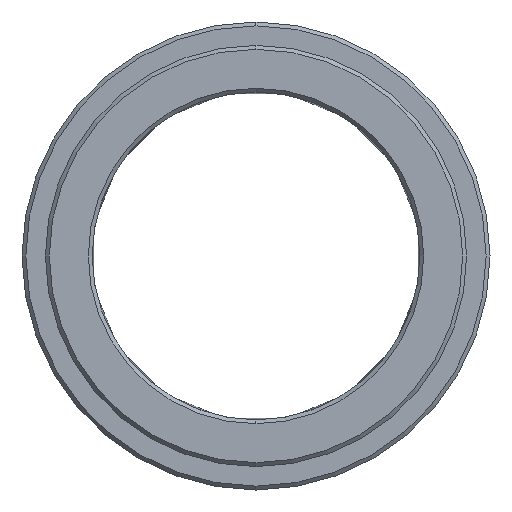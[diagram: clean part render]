
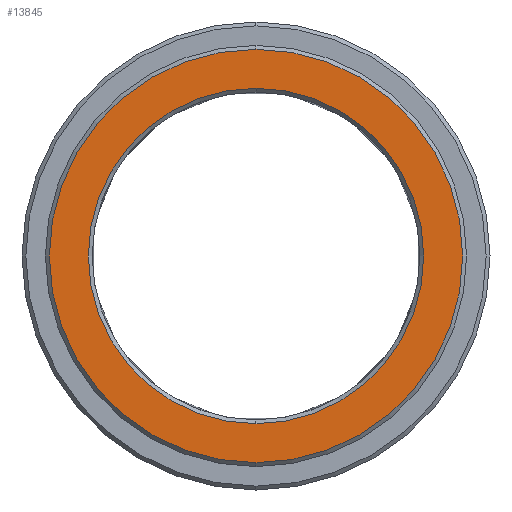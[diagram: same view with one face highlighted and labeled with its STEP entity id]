
A CAD part, left-side view. The second image highlights one B-rep face of the part: STEP entity #13845.
In plain terms, the highlighted planar face has unit normal (-1, 0, 0).
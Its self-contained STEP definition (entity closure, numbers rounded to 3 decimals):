
#9634=CARTESIAN_POINT('',(-10.,0.,
0.));
#9635=DIRECTION('',(1.,0.,0.));
#9636=DIRECTION('',(0.,0.,1.));
#9637=AXIS2_PLACEMENT_3D('',#9634,#9635,#9636);
#9639=CARTESIAN_POINT('',(-10.,0.,
0.));
#9640=DIRECTION('',(1.,0.,0.));
#9641=DIRECTION('',(0.,0.,-1.));
#9642=AXIS2_PLACEMENT_3D('',#9639,#9640,#9641);
#9644=CARTESIAN_POINT('',(-10.,0.,0.));
#9645=DIRECTION('',(1.,0.,0.));
#9646=DIRECTION('',(0.,0.,1.));
#9647=AXIS2_PLACEMENT_3D('',#9644,#9645,#9646);
#9649=CARTESIAN_POINT('',(-10.,0.,0.));
#9650=DIRECTION('',(1.,0.,0.));
#9651=DIRECTION('',(0.,0.,-1.));
#9652=AXIS2_PLACEMENT_3D('',#9649,#9650,#9651);
#10184=CARTESIAN_POINT('',(-10.,0.,21.5));
#10185=CARTESIAN_POINT('',(-10.,0.,-21.5));
#10186=VERTEX_POINT('',#10184);
#10187=VERTEX_POINT('',#10185);
#10192=CARTESIAN_POINT('',(-10.,0.,26.5));
#10193=CARTESIAN_POINT('',(-10.,0.,-26.5));
#10194=VERTEX_POINT('',#10192);
#10195=VERTEX_POINT('',#10193);
#13830=CARTESIAN_POINT('',(-10.,0.,0.));
#13831=DIRECTION('',(1.,0.,0.));
#13832=DIRECTION('',(0.,0.,1.));
#13833=AXIS2_PLACEMENT_3D('',#13830,#13831,#13832);
#13834=PLANE('',#13833);
#13835=ORIENTED_EDGE('',*,*,#13797,.T.);
#13836=ORIENTED_EDGE('',*,*,#13812,.T.);
#13837=EDGE_LOOP('',(#13835,#13836));
#13838=FACE_OUTER_BOUND('',#13837,.F.);
#13840=ORIENTED_EDGE('',*,*,#13839,.F.);
#13842=ORIENTED_EDGE('',*,*,#13841,.F.);
#13843=EDGE_LOOP('',(#13840,#13842));
#13844=FACE_BOUND('',#13843,.F.);
#13845=ADVANCED_FACE('',(#13838,#13844),#13834,.F.);
#9638=CIRCLE('',#9637,26.5);
#9643=CIRCLE('',#9642,26.5);
#9648=CIRCLE('',#9647,21.5);
#9653=CIRCLE('',#9652,21.5);
#13797=EDGE_CURVE('',#10194,#10195,#9638,.T.);
#13812=EDGE_CURVE('',#10195,#10194,#9643,.T.);
#13839=EDGE_CURVE('',#10186,#10187,#9648,.T.);
#13841=EDGE_CURVE('',#10187,#10186,#9653,.T.);
